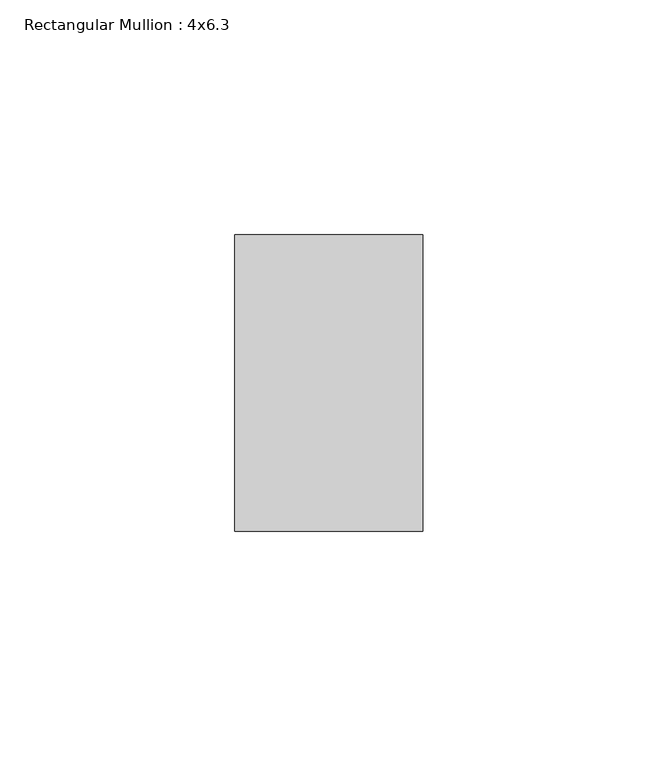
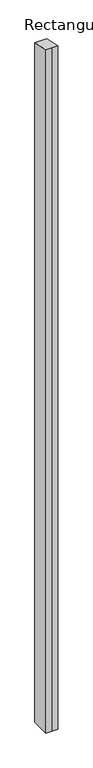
"""IFC4 building model written with IfcOpenShell, lengths in millimetres: member geometry, Rectangular Mullion : 4x6.3."""

from ifc_helpers import new_model, si_unit, origin, place, context, project, spatial, faceted_brep, source, transform, mapped, element, save


def rectangular_mullion_4x6_3_5dd93625(model_context):
    return source(origin(), model_context, "Body", "Brep", [
        faceted_brep([(-20.0, 20.0, -2435.6570699), (-20.0, 83.0, -2435.6570699), (20.0, 83.0, -2435.6570699), (20.0, 20.0, -2435.6570699), (0.0, 20.0, -2435.6570699), (0.0, 20.0, -4.3995804), (-20.0, 20.0, -4.3995804), (20.0, 20.0, -4.3995804), (20.0, 83.0, -18.2582585), (-20.0, 83.0, -18.2582585)], [[[0, 1, 2, 3, 4]], [[5, 6, 0, 4]], [[7, 5, 4, 3]], [[8, 7, 3, 2]], [[9, 8, 2, 1]], [[6, 9, 1, 0]], [[6, 5, 7, 8, 9]]]),
    ])


if __name__ == "__main__":
    model = new_model("IFC4")
    model_context = context("Model", 3, world=origin())
    ifc_project = project(units=[si_unit("LENGTHUNIT", "METRE", prefix="MILLI")], contexts=[model_context])
    site = spatial("IfcSite", under=ifc_project)
    building = spatial("IfcBuilding", under=site)
    placement = place(None, origin())
    rectangular_mullion_4x6_3_shape = rectangular_mullion_4x6_3_5dd93625(model_context)
    element("IfcMember", 1, ObjectType="Rectangular Mullion : 4x6.3", at=placement, inside=building, context=model_context, shape_type="MappedRepresentation", body=[
        mapped(rectangular_mullion_4x6_3_shape, transform((0.0, 0.0, 0.0), x_axis=(1.0, 0.0, 0.0), y_axis=(0.0, 1.0, 0.0), z_axis=(0.0, 0.0, 1.0))),
    ])
    save(model, "model.ifc")
